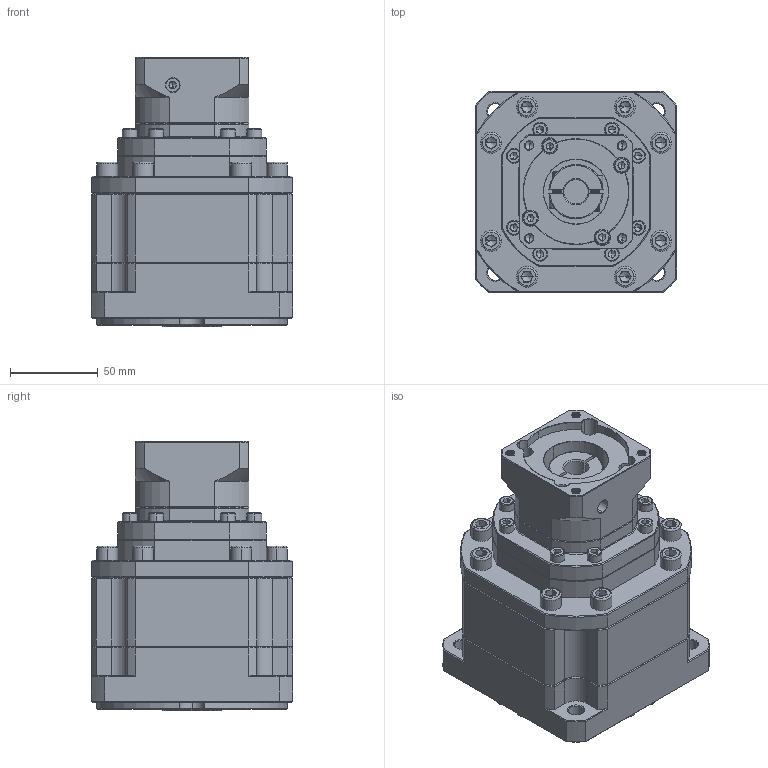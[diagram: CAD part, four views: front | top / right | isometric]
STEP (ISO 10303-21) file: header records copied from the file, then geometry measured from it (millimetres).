
FILE_DESCRIPTION (( 'STEP AP214' ), '1' );
FILE_NAME ('ZB115A-K25-L3-P2-14-60-75-M6.step', '2023-08-26T10:34:58', ( '' ), ( '' ), 'SwSTEP 2.0', 'SolidWorks 2016', '' );
FILE_SCHEMA (( 'AUTOMOTIVE_DESIGN' ));
Length unit declared in the file: millimetre
Products named in the file (1): ZB115A-K25-L3-P2-14-60-75-M6
Bounding box: 115 x 115 x 154 mm (x, y, z)
Volume: 1245793.3 mm3; surface area: 120396.8 mm2
Topology: 7 solids, 7 shells, 2508 faces, 6615 edges, 4217 vertices
Faces by surface type: plane 1299, bspline 434, cylinder 412, cone 341, torus 22
Entity records: 127551 total; most frequent: CARTESIAN_POINT 41229, ORIENTED_EDGE 13110, DIRECTION 10653, EDGE_CURVE 6555, VECTOR 4239, LINE 4239, VERTEX_POINT 4217, AXIS2_PLACEMENT_3D 3207
